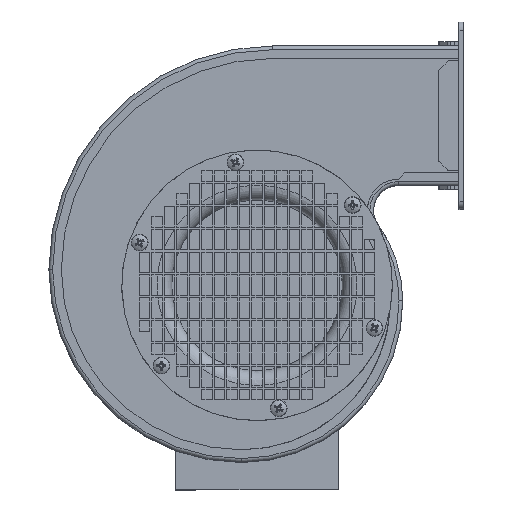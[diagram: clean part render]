
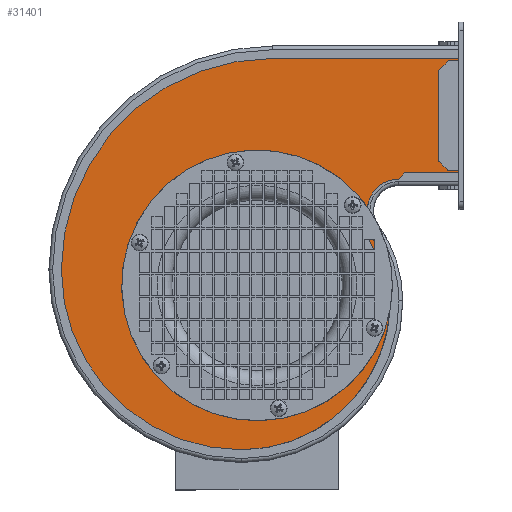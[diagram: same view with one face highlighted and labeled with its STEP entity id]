
A CAD part, top view. The second image highlights one B-rep face of the part: STEP entity #31401.
In plain terms, the highlighted planar face has unit normal (0, 0, 1).
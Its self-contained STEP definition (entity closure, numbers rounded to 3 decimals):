
#679=FACE_BOUND('',#5952,.T.);
#1078=CIRCLE('',#33069,6.);
#1079=CIRCLE('',#33072,6.);
#1080=CIRCLE('',#33074,54.5);
#1081=CIRCLE('',#33077,65.);
#1116=CIRCLE('',#33139,2.);
#1117=CIRCLE('',#33142,2.);
#1118=CIRCLE('',#33144,2.);
#1119=CIRCLE('',#33147,2.);
#1128=CIRCLE('',#33189,101.5);
#1129=CIRCLE('',#33190,86.5);
#1130=CIRCLE('',#33191,71.5);
#1131=CIRCLE('',#33192,56.5);
#1132=CIRCLE('',#33193,15.01);
#2513=PLANE('',#33188);
#4048=FACE_OUTER_BOUND('',#5951,.T.);
#5951=EDGE_LOOP('',(#28404,#28405,#28406,#28407,#28408,#28409,#28410,#28411,
#28412,#28413,#28414,#28415,#28416,#28417,#28418,#28419,#28420,#28421,#28422,
#28423,#28424,#28425));
#5952=EDGE_LOOP('',(#28426,#28427,#28428,#28429,#28430));
#9497=LINE('',#58578,#12443);
#9515=LINE('',#58639,#12461);
#9519=LINE('',#58647,#12465);
#9554=LINE('',#58751,#12500);
#9568=LINE('',#58788,#12514);
#9598=LINE('',#58853,#12544);
#9603=LINE('',#58867,#12549);
#9627=LINE('',#58933,#12573);
#9628=LINE('',#58935,#12574);
#9629=LINE('',#58937,#12575);
#9639=LINE('',#58966,#12585);
#9640=LINE('',#58976,#12586);
#9641=LINE('',#58980,#12587);
#9642=LINE('',#58981,#12588);
#12443=VECTOR('',#39262,10.);
#12461=VECTOR('',#39316,10.);
#12465=VECTOR('',#39320,10.);
#12500=VECTOR('',#39399,10.);
#12514=VECTOR('',#39431,10.);
#12544=VECTOR('',#39503,10.);
#12549=VECTOR('',#39518,10.);
#12573=VECTOR('',#39592,10.);
#12574=VECTOR('',#39595,10.);
#12575=VECTOR('',#39598,10.);
#12585=VECTOR('',#39640,10.);
#12586=VECTOR('',#39649,10.);
#12587=VECTOR('',#39652,10.);
#12588=VECTOR('',#39653,10.);
#15338=VERTEX_POINT('',#58571);
#15339=VERTEX_POINT('',#58572);
#15340=VERTEX_POINT('',#58577);
#15341=VERTEX_POINT('',#58581);
#15342=VERTEX_POINT('',#58585);
#15364=VERTEX_POINT('',#58636);
#15365=VERTEX_POINT('',#58638);
#15368=VERTEX_POINT('',#58644);
#15369=VERTEX_POINT('',#58646);
#15416=VERTEX_POINT('',#58749);
#15430=VERTEX_POINT('',#58787);
#15442=VERTEX_POINT('',#58845);
#15443=VERTEX_POINT('',#58847);
#15444=VERTEX_POINT('',#58851);
#15445=VERTEX_POINT('',#58855);
#15446=VERTEX_POINT('',#58859);
#15447=VERTEX_POINT('',#58861);
#15448=VERTEX_POINT('',#58865);
#15449=VERTEX_POINT('',#58869);
#15468=VERTEX_POINT('',#58965);
#15469=VERTEX_POINT('',#58967);
#15470=VERTEX_POINT('',#58969);
#15471=VERTEX_POINT('',#58971);
#15472=VERTEX_POINT('',#58973);
#15473=VERTEX_POINT('',#58975);
#15474=VERTEX_POINT('',#58977);
#15475=VERTEX_POINT('',#58979);
#19613=EDGE_CURVE('',#15338,#15339,#1078,.T.);
#19616=EDGE_CURVE('',#15340,#15338,#9497,.T.);
#19618=EDGE_CURVE('',#15341,#15340,#1079,.T.);
#19621=EDGE_CURVE('',#15339,#15342,#1080,.T.);
#19622=EDGE_CURVE('',#15342,#15341,#1081,.T.);
#19645=EDGE_CURVE('',#15364,#15365,#9515,.T.);
#19649=EDGE_CURVE('',#15368,#15369,#9519,.T.);
#19702=EDGE_CURVE('',#15368,#15416,#9554,.T.);
#19720=EDGE_CURVE('',#15430,#15365,#9568,.T.);
#19752=EDGE_CURVE('',#15443,#15442,#1116,.T.);
#19755=EDGE_CURVE('',#15442,#15444,#9598,.T.);
#19757=EDGE_CURVE('',#15444,#15445,#1117,.T.);
#19759=EDGE_CURVE('',#15447,#15446,#1118,.T.);
#19762=EDGE_CURVE('',#15446,#15448,#9603,.T.);
#19764=EDGE_CURVE('',#15448,#15449,#1119,.T.);
#19795=EDGE_CURVE('',#15416,#15443,#9627,.T.);
#19796=EDGE_CURVE('',#15449,#15430,#9628,.T.);
#19797=EDGE_CURVE('',#15445,#15447,#9629,.T.);
#19807=EDGE_CURVE('',#15364,#15468,#9639,.T.);
#19808=EDGE_CURVE('',#15468,#15469,#1128,.T.);
#19809=EDGE_CURVE('',#15469,#15470,#1129,.T.);
#19810=EDGE_CURVE('',#15470,#15471,#1130,.T.);
#19811=EDGE_CURVE('',#15471,#15472,#1131,.T.);
#19812=EDGE_CURVE('',#15472,#15473,#9640,.T.);
#19813=EDGE_CURVE('',#15473,#15474,#1132,.T.);
#19814=EDGE_CURVE('',#15474,#15475,#9641,.T.);
#19815=EDGE_CURVE('',#15475,#15369,#9642,.T.);
#28404=ORIENTED_EDGE('',*,*,#19702,.T.);
#28405=ORIENTED_EDGE('',*,*,#19795,.T.);
#28406=ORIENTED_EDGE('',*,*,#19752,.T.);
#28407=ORIENTED_EDGE('',*,*,#19755,.T.);
#28408=ORIENTED_EDGE('',*,*,#19757,.T.);
#28409=ORIENTED_EDGE('',*,*,#19797,.T.);
#28410=ORIENTED_EDGE('',*,*,#19759,.T.);
#28411=ORIENTED_EDGE('',*,*,#19762,.T.);
#28412=ORIENTED_EDGE('',*,*,#19764,.T.);
#28413=ORIENTED_EDGE('',*,*,#19796,.T.);
#28414=ORIENTED_EDGE('',*,*,#19720,.T.);
#28415=ORIENTED_EDGE('',*,*,#19645,.F.);
#28416=ORIENTED_EDGE('',*,*,#19807,.T.);
#28417=ORIENTED_EDGE('',*,*,#19808,.T.);
#28418=ORIENTED_EDGE('',*,*,#19809,.T.);
#28419=ORIENTED_EDGE('',*,*,#19810,.T.);
#28420=ORIENTED_EDGE('',*,*,#19811,.T.);
#28421=ORIENTED_EDGE('',*,*,#19812,.T.);
#28422=ORIENTED_EDGE('',*,*,#19813,.T.);
#28423=ORIENTED_EDGE('',*,*,#19814,.T.);
#28424=ORIENTED_EDGE('',*,*,#19815,.T.);
#28425=ORIENTED_EDGE('',*,*,#19649,.F.);
#28426=ORIENTED_EDGE('',*,*,#19613,.T.);
#28427=ORIENTED_EDGE('',*,*,#19621,.T.);
#28428=ORIENTED_EDGE('',*,*,#19622,.T.);
#28429=ORIENTED_EDGE('',*,*,#19618,.T.);
#28430=ORIENTED_EDGE('',*,*,#19616,.T.);
#31401=ADVANCED_FACE('',(#4048,#679),#2513,.T.);
#33069=AXIS2_PLACEMENT_3D('',#58573,#39256,#39257);
#33072=AXIS2_PLACEMENT_3D('',#58582,#39266,#39267);
#33074=AXIS2_PLACEMENT_3D('',#58587,#39272,#39273);
#33077=AXIS2_PLACEMENT_3D('',#58590,#39278,#39279);
#33139=AXIS2_PLACEMENT_3D('',#58848,#39497,#39498);
#33142=AXIS2_PLACEMENT_3D('',#58857,#39507,#39508);
#33144=AXIS2_PLACEMENT_3D('',#58862,#39512,#39513);
#33147=AXIS2_PLACEMENT_3D('',#58871,#39522,#39523);
#33188=AXIS2_PLACEMENT_3D('',#58964,#39638,#39639);
#33189=AXIS2_PLACEMENT_3D('',#58968,#39641,#39642);
#33190=AXIS2_PLACEMENT_3D('',#58970,#39643,#39644);
#33191=AXIS2_PLACEMENT_3D('',#58972,#39645,#39646);
#33192=AXIS2_PLACEMENT_3D('',#58974,#39647,#39648);
#33193=AXIS2_PLACEMENT_3D('',#58978,#39650,#39651);
#39256=DIRECTION('center_axis',(0.,0.,1.));
#39257=DIRECTION('ref_axis',(-0.929,-0.371,0.));
#39262=DIRECTION('',(0.228,-0.974,0.));
#39266=DIRECTION('center_axis',(0.,0.,-1.));
#39267=DIRECTION('ref_axis',(0.884,0.468,0.));
#39272=DIRECTION('center_axis',(0.,0.,-1.));
#39273=DIRECTION('ref_axis',(-0.855,-0.519,0.));
#39278=DIRECTION('center_axis',(0.,0.,-1.));
#39279=DIRECTION('ref_axis',(-1.,0.,0.));
#39316=DIRECTION('',(0.,-1.,0.));
#39320=DIRECTION('',(0.,-1.,0.));
#39399=DIRECTION('',(-1.,0.,0.));
#39431=DIRECTION('',(1.,0.,0.));
#39497=DIRECTION('center_axis',(0.,0.,-1.));
#39498=DIRECTION('ref_axis',(-0.383,-0.924,0.));
#39503=DIRECTION('',(-0.707,0.707,0.));
#39507=DIRECTION('center_axis',(0.,0.,-1.));
#39508=DIRECTION('ref_axis',(-0.924,-0.383,0.));
#39512=DIRECTION('center_axis',(0.,0.,-1.));
#39513=DIRECTION('ref_axis',(-0.924,0.383,0.));
#39518=DIRECTION('',(0.707,0.707,0.));
#39522=DIRECTION('center_axis',(0.,0.,-1.));
#39523=DIRECTION('ref_axis',(-0.383,0.924,0.));
#39592=DIRECTION('',(-1.,0.,0.));
#39595=DIRECTION('',(1.,0.,0.));
#39598=DIRECTION('',(0.,1.,0.));
#39638=DIRECTION('center_axis',(0.,0.,1.));
#39639=DIRECTION('ref_axis',(1.,0.,0.));
#39640=DIRECTION('',(-1.,0.,0.));
#39641=DIRECTION('center_axis',(0.,0.,1.));
#39642=DIRECTION('ref_axis',(1.,0.,0.));
#39643=DIRECTION('center_axis',(0.,0.,1.));
#39644=DIRECTION('ref_axis',(0.,1.,0.));
#39645=DIRECTION('center_axis',(0.,0.,1.));
#39646=DIRECTION('ref_axis',(-1.,0.,0.));
#39647=DIRECTION('center_axis',(0.,0.,1.));
#39648=DIRECTION('ref_axis',(-0.812,-0.584,0.));
#39649=DIRECTION('',(0.161,0.987,0.));
#39650=DIRECTION('center_axis',(0.,0.,-1.));
#39651=DIRECTION('ref_axis',(0.,1.,0.));
#39652=DIRECTION('',(0.707,0.707,0.));
#39653=DIRECTION('',(1.,0.,0.));
#58571=CARTESIAN_POINT('',(53.885,21.669,67.));
#58572=CARTESIAN_POINT('',(54.548,20.009,67.));
#58573=CARTESIAN_POINT('Origin',(59.727,23.038,67.));
#58577=CARTESIAN_POINT('',(49.289,41.285,67.));
#58578=CARTESIAN_POINT('',(52.342,28.254,67.));
#58581=CARTESIAN_POINT('',(47.866,43.976,67.));
#58582=CARTESIAN_POINT('Origin',(43.447,39.917,67.));
#58585=CARTESIAN_POINT('',(51.526,-39.624,67.));
#58587=CARTESIAN_POINT('Origin',(7.5,-7.5,67.));
#58590=CARTESIAN_POINT('Origin',(0.,0.,
67.));
#58636=CARTESIAN_POINT('',(97.,109.,67.));
#58638=CARTESIAN_POINT('',(97.,108.,67.));
#58639=CARTESIAN_POINT('',(97.,48.,67.));
#58644=CARTESIAN_POINT('',(97.,55.,67.));
#58646=CARTESIAN_POINT('',(97.,54.,67.));
#58647=CARTESIAN_POINT('',(97.,48.,67.));
#58749=CARTESIAN_POINT('',(95.,55.,67.));
#58751=CARTESIAN_POINT('',(51.305,55.,67.));
#58787=CARTESIAN_POINT('',(95.,108.,67.));
#58788=CARTESIAN_POINT('',(51.305,108.,67.));
#58845=CARTESIAN_POINT('',(91.414,55.586,67.));
#58847=CARTESIAN_POINT('',(92.828,55.,67.));
#58848=CARTESIAN_POINT('Origin',(92.828,57.,67.));
#58851=CARTESIAN_POINT('',(87.586,59.414,67.));
#58853=CARTESIAN_POINT('',(75.16,71.84,67.));
#58855=CARTESIAN_POINT('',(87.,60.828,67.));
#58857=CARTESIAN_POINT('Origin',(89.,60.828,67.));
#58859=CARTESIAN_POINT('',(87.586,103.586,67.));
#58861=CARTESIAN_POINT('',(87.,102.172,67.));
#58862=CARTESIAN_POINT('Origin',(89.,102.172,67.));
#58865=CARTESIAN_POINT('',(91.414,107.414,67.));
#58867=CARTESIAN_POINT('',(49.395,65.395,67.));
#58869=CARTESIAN_POINT('',(92.828,108.,67.));
#58871=CARTESIAN_POINT('Origin',(92.828,106.,67.));
#58933=CARTESIAN_POINT('',(51.305,55.,67.));
#58935=CARTESIAN_POINT('',(51.305,108.,67.));
#58937=CARTESIAN_POINT('',(87.,63.985,67.));
#58964=CARTESIAN_POINT('Origin',(4.61,24.97,67.));
#58965=CARTESIAN_POINT('',(7.5,109.,67.));
#58966=CARTESIAN_POINT('',(6.055,109.,67.));
#58967=CARTESIAN_POINT('',(-94.,7.5,67.));
#58968=CARTESIAN_POINT('Origin',(7.5,7.5,67.));
#58969=CARTESIAN_POINT('',(-7.5,-79.,67.));
#58970=CARTESIAN_POINT('Origin',(-7.5,7.5,67.));
#58971=CARTESIAN_POINT('',(64.,-7.5,67.));
#58972=CARTESIAN_POINT('Origin',(-7.5,-7.5,67.));
#58973=CARTESIAN_POINT('',(55.109,22.925,67.));
#58974=CARTESIAN_POINT('Origin',(7.5,-7.5,67.));
#58975=CARTESIAN_POINT('',(55.813,27.23,67.));
#58976=CARTESIAN_POINT('',(54.613,19.898,67.));
#58977=CARTESIAN_POINT('',(68.,51.,67.));
#58978=CARTESIAN_POINT('Origin',(68.,35.99,67.));
#58979=CARTESIAN_POINT('',(71.,54.,67.));
#58980=CARTESIAN_POINT('',(45.645,28.645,67.));
#58981=CARTESIAN_POINT('',(50.805,54.,67.));
